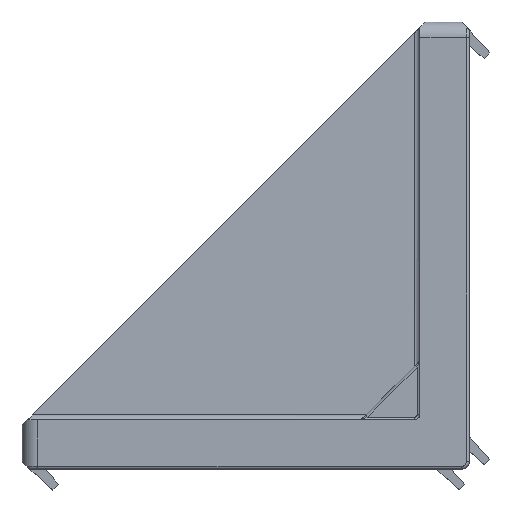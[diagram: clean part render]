
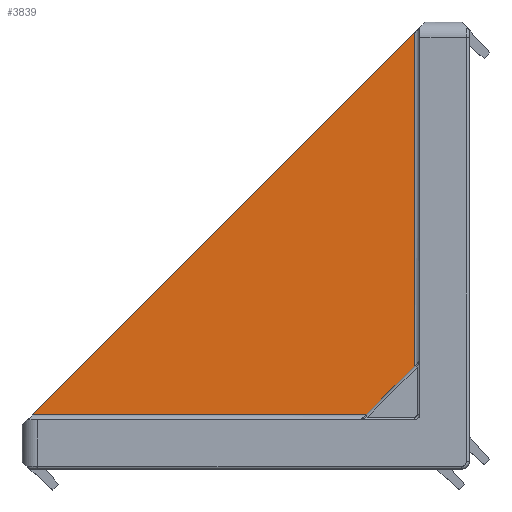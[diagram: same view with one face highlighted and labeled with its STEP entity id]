
A CAD part, top view. The second image highlights one B-rep face of the part: STEP entity #3839.
In plain terms, the highlighted planar face has unit normal (-0.012, 0.012, 1).
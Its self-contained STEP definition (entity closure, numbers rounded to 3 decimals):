
#1959 = CARTESIAN_POINT ( 'NONE',  ( -10.488, 10.488, -14.593 ) ) ;
#1961 = VECTOR ( 'NONE', #1985, 1000. ) ;
#1962 = LINE ( 'NONE', #1959, #1961 ) ;
#1985 = DIRECTION ( 'NONE',  ( 0., 1., -0.012 ) ) ;
#2064 = CARTESIAN_POINT ( 'NONE',  ( -10.488, 84.012, -15.5 ) ) ;
#2089 = LINE ( 'NONE', #2137, #2122 ) ;
#2097 = DIRECTION ( 'NONE',  ( 1., 0., 0.012 ) ) ;
#2098 = DIRECTION ( 'NONE',  ( -0.012, 0.012, 1. ) ) ;
#2099 = CARTESIAN_POINT ( 'NONE',  ( -86., 8.5, -15.5 ) ) ;
#2100 = LINE ( 'NONE', #2129, #2128 ) ;
#2101 = AXIS2_PLACEMENT_3D ( 'NONE', #2099, #2098, #2097 ) ;
#2102 = FACE_OUTER_BOUND ( 'NONE', #3782, .T. ) ;
#2105 = PLANE ( 'NONE',  #2101 ) ;
#2122 = VECTOR ( 'NONE', #2136, 1000. ) ;
#2126 = CARTESIAN_POINT ( 'NONE',  ( -84.012, 10.488, -15.5 ) ) ;
#2127 = DIRECTION ( 'NONE',  ( -0.707, -0.707, 0. ) ) ;
#2128 = VECTOR ( 'NONE', #2127, 1000. ) ;
#2129 = CARTESIAN_POINT ( 'NONE',  ( -86., 8.5, -15.5 ) ) ;
#2136 = DIRECTION ( 'NONE',  ( 1., 0., 0.012 ) ) ;
#2137 = CARTESIAN_POINT ( 'NONE',  ( -86., 10.488, -15.525 ) ) ;
#2926 = CARTESIAN_POINT ( 'NONE',  ( -10.488, 10.488, -14.593 ) ) ;
#3669 = ORIENTED_EDGE ( 'NONE', *, *, #3779, .T. ) ;
#3779 = EDGE_CURVE ( 'NONE', #5740, #3827, #1962, .T. ) ;
#3782 = EDGE_LOOP ( 'NONE', ( #3669, #3811, #3820 ) ) ;
#3811 = ORIENTED_EDGE ( 'NONE', *, *, #3847, .T. ) ;
#3820 = ORIENTED_EDGE ( 'NONE', *, *, #3850, .T. ) ;
#3827 = VERTEX_POINT ( 'NONE', #2064 ) ;
#3839 = ADVANCED_FACE ( 'NONE', ( #2102 ), #2105, .T. ) ;
#3847 = EDGE_CURVE ( 'NONE', #3827, #3855, #2100, .T. ) ;
#3850 = EDGE_CURVE ( 'NONE', #3855, #5740, #2089, .T. ) ;
#3855 = VERTEX_POINT ( 'NONE', #2126 ) ;
#5740 = VERTEX_POINT ( 'NONE', #2926 ) ;
